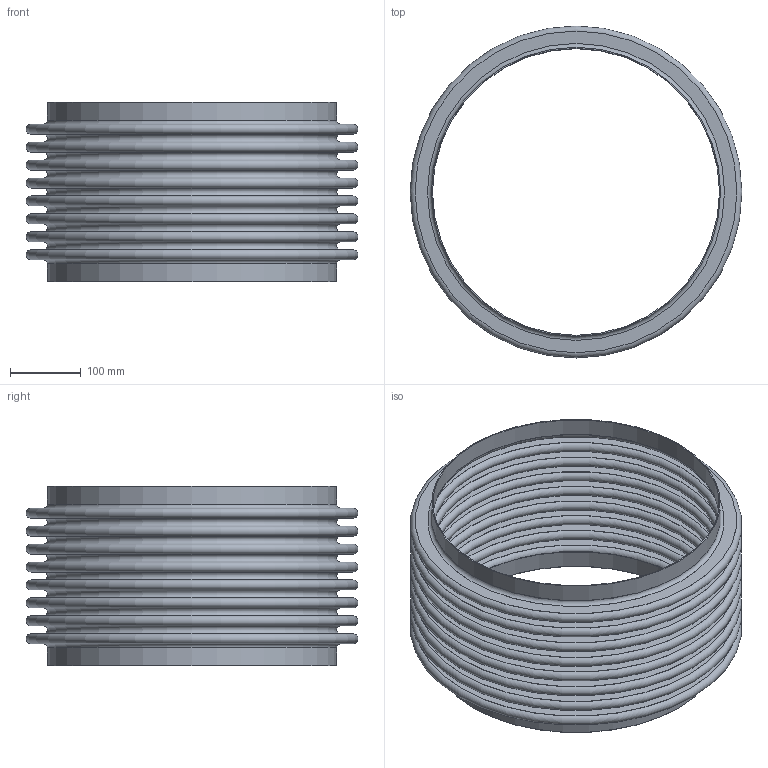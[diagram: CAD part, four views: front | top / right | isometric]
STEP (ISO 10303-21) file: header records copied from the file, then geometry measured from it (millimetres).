
FILE_DESCRIPTION(/* description */ ('STOCK BELLOWS: U.S-16-8-150S, 16.000 I.D., 18.500 O.D., 1 PLY, 16 GA (0.060 THICK), 8 CONS., 1.000 PITCH, 1.000 TANGENT. '),/* implementation_level */ '2;1');
FILE_NAME(/* name */ 'STOCK BELLOW - US-16-8-150S.stp',/* time_stamp */ '2026-07-21T13:05:00-05:00',/* author */ ('KennethB'),/* organization */ (''),/* preprocessor_version */ 'ST-DEVELOPER v20.1',/* originating_system */ 'Autodesk Inventor 2026',/* authorisation */ '');
FILE_SCHEMA (('AUTOMOTIVE_DESIGN { 1 0 10303 214 3 1 1 }'));
Length unit declared in the file: inch
Products named in the file (1): STOCK BELLOW - US-16-8-150S
Bounding box: 469.9 x 469.9 x 254 mm (x, y, z)
Volume: 1357041.2 mm3; surface area: 1792612.3 mm2
Topology: 3 solids, 3 shells, 76 faces, 114 edges, 77 vertices
Faces by surface type: plane 38, torus 34, cylinder 4
Full cylindrical faces by diameter (mm): 406.4 x2, 409.448 x2
Entity records: 1814 total; most frequent: DIRECTION 378, CARTESIAN_POINT 268, ORIENTED_EDGE 228, AXIS2_PLACEMENT_3D 187, EDGE_LOOP 114, EDGE_CURVE 114, CIRCLE 110, FACE_OUTER_BOUND 76
